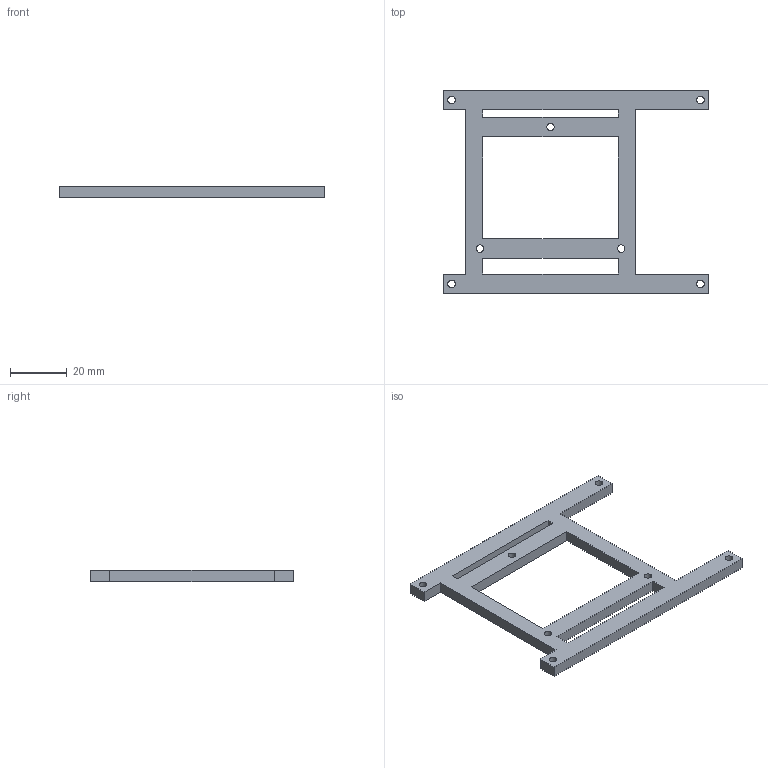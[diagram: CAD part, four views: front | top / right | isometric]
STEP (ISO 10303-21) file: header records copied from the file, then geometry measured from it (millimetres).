
FILE_DESCRIPTION(('Open CASCADE Model'),'2;1');
FILE_NAME('Open CASCADE Shape Model','2026-11-05T01:47:42',('Author'),( 'Open CASCADE'),'Open CASCADE STEP processor 7.8','Open CASCADE 7.8' ,'Unknown');
FILE_SCHEMA(('AUTOMOTIVE_DESIGN { 1 0 10303 214 1 1 1 1 }'));
Length unit declared in the file: millimetre
Products named in the file (1): Open CASCADE STEP translator 7.8 5
Bounding box: 94 x 72 x 4 mm (x, y, z)
Volume: 10580.7 mm3; surface area: 8628.1 mm2
Topology: 1 solids, 1 shells, 33 faces, 93 edges, 62 vertices
Faces by surface type: plane 26, cylinder 7
Full cylindrical faces by diameter (mm): 2.6 x3, 2.7 x4
Entity records: 2320 total; most frequent: CARTESIAN_POINT 375, DIRECTION 361, LINE 251, VECTOR 251, ORIENTED_EDGE 186, PCURVE 186, DEFINITIONAL_REPRESENTATION 186, EDGE_CURVE 93
